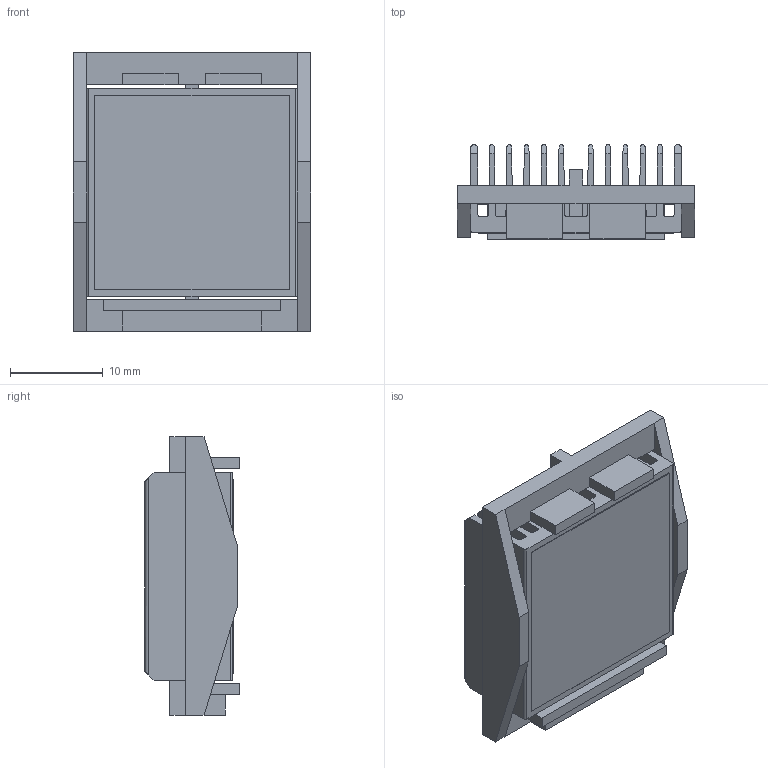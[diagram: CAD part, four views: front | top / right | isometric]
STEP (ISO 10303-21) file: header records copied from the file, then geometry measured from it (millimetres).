
FILE_DESCRIPTION (( 'STEP AP214' ), '1' );
FILE_NAME ('INL23001-10-1.7O.STEP', '2023-02-21T17:21:33', ( '' ), ( '' ), 'SwSTEP 2.0', 'SolidWorks 2020', '' );
FILE_SCHEMA (( 'AUTOMOTIVE_DESIGN' ));
Length unit declared in the file: millimetre
Products named in the file (1): INL23001-10-1.7O
Bounding box: 25.7 x 10.2 x 30.1 mm (x, y, z)
Volume: 3252.6 mm3; surface area: 7854.4 mm2
Topology: 3 solids, 3 shells, 152 faces, 440 edges, 292 vertices
Faces by surface type: plane 116, cylinder 36
Entity records: 6668 total; most frequent: CARTESIAN_POINT 957, ORIENTED_EDGE 880, DIRECTION 770, EDGE_CURVE 440, VECTOR 368, LINE 368, VERTEX_POINT 292, AXIS2_PLACEMENT_3D 201
